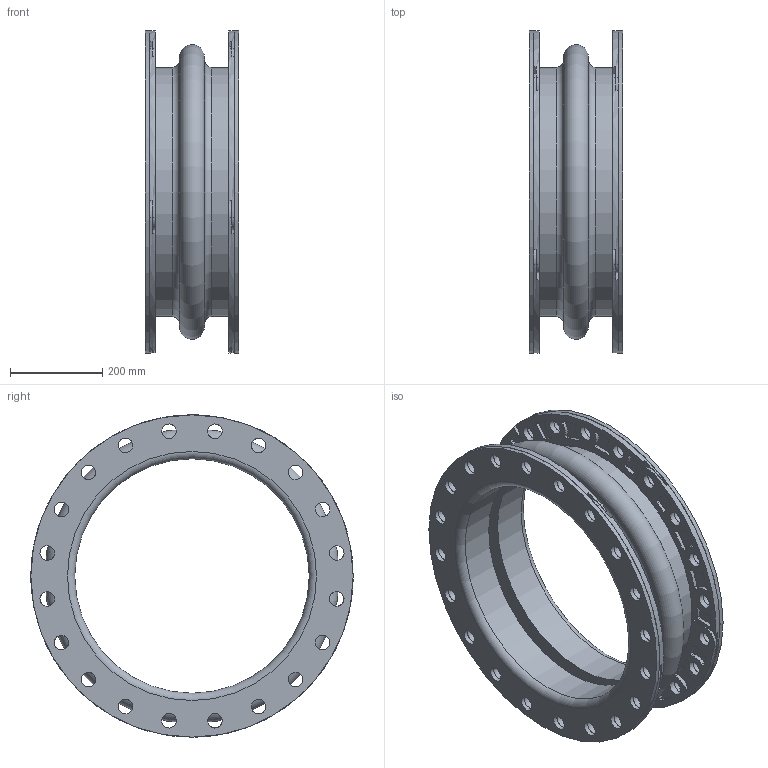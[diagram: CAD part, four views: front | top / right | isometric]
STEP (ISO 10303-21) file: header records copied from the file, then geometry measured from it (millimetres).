
FILE_DESCRIPTION(/* description */ (''),/* implementation_level */ '2;1');
FILE_NAME(/* name */ 'C:\001_Work\Designs\Mercer2014\MQInventor2014\RajR\500 Style\501\New folder\501 20IDx8FF.stp',/* time_stamp */ '2016-03-26T14:23:42-04:00',/* author */ ('rramoutar'),/* organization */ ('Mason Industries Inc.'),/* preprocessor_version */ 'ST-DEVELOPER v15.6',/* originating_system */ 'Autodesk Inventor 2015',/* authorisation */ '');
FILE_SCHEMA (('CONFIG_CONTROL_DESIGN'));
Length unit declared in the file: inch
Products named in the file (1): 501 20IDx8FF
Bounding box: 203.2 x 698.5 x 698.5 mm (x, y, z)
Volume: 12839316.9 mm3; surface area: 2314799.5 mm2
Topology: 3 solids, 3 shells, 594 faces, 1634 edges, 1084 vertices
Faces by surface type: cylinder 438, plane 144, torus 8, cone 4
Full cylindrical faces by diameter (mm): 31.75 x80, 508 x2, 539.75 x2, 552.45 x2, 698.5 x2
Entity records: 19768 total; most frequent: DIRECTION 3674, CARTESIAN_POINT 3189, ORIENTED_EDGE 3044, AXIS2_PLACEMENT_3D 1557, EDGE_CURVE 1522, VERTEX_POINT 1072, CIRCLE 962, EDGE_LOOP 898
